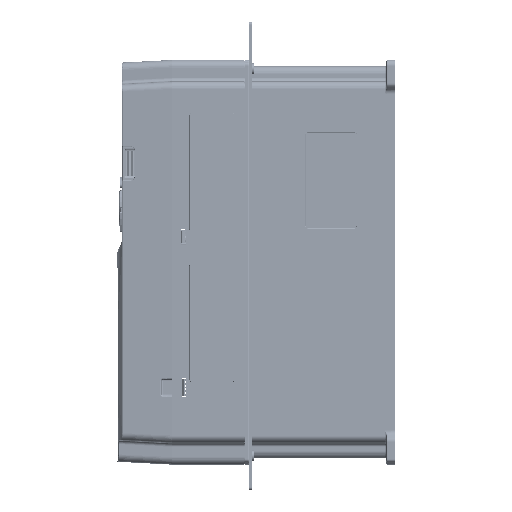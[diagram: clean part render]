
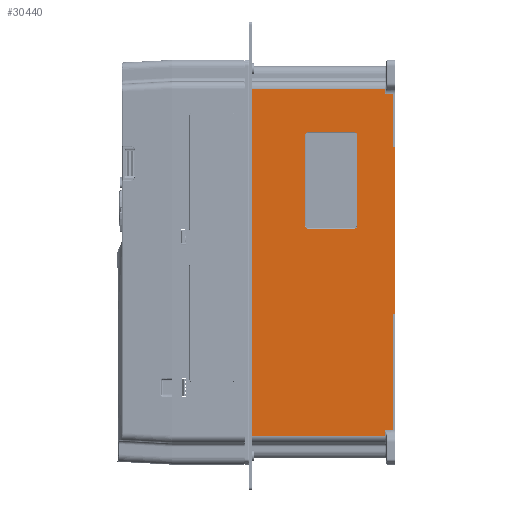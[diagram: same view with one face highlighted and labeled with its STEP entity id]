
A CAD part, left-side view. The second image highlights one B-rep face of the part: STEP entity #30440.
In plain terms, the highlighted planar face has unit normal (-1, 0, 0).
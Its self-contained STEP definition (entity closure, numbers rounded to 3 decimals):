
#2=CARTESIAN_POINT('',(-80.,-63.,29.));
#3=DIRECTION('',(1.,0.,0.));
#4=DIRECTION('',(0.,-1.,0.));
#5=AXIS2_PLACEMENT_3D('',#2,#3,#4);
#7=DIRECTION('',(0.,0.,-1.));
#8=VECTOR('',#7,71.4);
#9=CARTESIAN_POINT('',(-80.,-65.458,100.4));
#10=LINE('',#9,#8);
#11=CARTESIAN_POINT('',(-80.,-63.,100.4));
#12=DIRECTION('',(1.,0.,0.));
#13=DIRECTION('',(0.,0.,1.));
#14=AXIS2_PLACEMENT_3D('',#11,#12,#13);
#16=DIRECTION('',(0.,-1.,0.));
#17=VECTOR('',#16,36.4);
#18=CARTESIAN_POINT('',(-80.,-26.6,102.858));
#19=LINE('',#18,#17);
#20=CARTESIAN_POINT('',(-80.,-26.6,100.4));
#21=DIRECTION('',(1.,0.,0.));
#22=DIRECTION('',(0.,1.,0.));
#23=AXIS2_PLACEMENT_3D('',#20,#21,#22);
#25=DIRECTION('',(0.,0.,1.));
#26=VECTOR('',#25,71.4);
#27=CARTESIAN_POINT('',(-80.,-24.142,29.));
#28=LINE('',#27,#26);
#29=CARTESIAN_POINT('',(-80.,-26.6,29.));
#30=DIRECTION('',(1.,0.,0.));
#31=DIRECTION('',(0.,0.,-1.));
#32=AXIS2_PLACEMENT_3D('',#29,#30,#31);
#34=DIRECTION('',(0.,1.,0.));
#35=VECTOR('',#34,36.4);
#36=CARTESIAN_POINT('',(-80.,-63.,26.542));
#37=LINE('',#36,#35);
#38=DIRECTION('',(0.,0.,-1.));
#39=VECTOR('',#38,4.071);
#40=CARTESIAN_POINT('',(-80.,-87.5,137.));
#41=LINE('',#40,#39);
#42=DIRECTION('',(0.,0.,1.));
#43=VECTOR('',#42,42.129);
#44=CARTESIAN_POINT('',(-80.,-93.5,90.8));
#45=LINE('',#44,#43);
#46=DIRECTION('',(0.,1.,0.));
#47=VECTOR('',#46,1.5);
#48=CARTESIAN_POINT('',(-80.,-95.,90.8));
#49=LINE('',#48,#47);
#50=DIRECTION('',(0.,1.,0.));
#51=VECTOR('',#50,1.5);
#52=CARTESIAN_POINT('',(-80.,-95.,-40.8));
#53=LINE('',#52,#51);
#54=DIRECTION('',(0.,0.,1.));
#55=VECTOR('',#54,92.129);
#56=CARTESIAN_POINT('',(-80.,-93.5,-132.929));
#57=LINE('',#56,#55);
#58=DIRECTION('',(0.,0.,-1.));
#59=VECTOR('',#58,4.071);
#60=CARTESIAN_POINT('',(-80.,-87.5,-132.929));
#61=LINE('',#60,#59);
#62=DIRECTION('',(0.,-1.,0.));
#63=VECTOR('',#62,107.5);
#64=CARTESIAN_POINT('',(-80.,20.,-137.));
#65=LINE('',#64,#63);
#66=DIRECTION('',(0.,0.,1.));
#67=VECTOR('',#66,274.);
#68=CARTESIAN_POINT('',(-80.,20.,-137.));
#69=LINE('',#68,#67);
#70=DIRECTION('',(0.,-1.,0.));
#71=VECTOR('',#70,107.5);
#72=CARTESIAN_POINT('',(-80.,20.,137.));
#73=LINE('',#72,#71);
#20832=DIRECTION('',(0.,-1.,0.));
#20833=VECTOR('',#20832,6.);
#20834=CARTESIAN_POINT('',(-80.,-87.5,
-132.929));
#20835=LINE('',#20834,#20833);
#21257=DIRECTION('',(0.,0.,1.));
#21258=VECTOR('',#21257,131.6);
#21259=CARTESIAN_POINT('',(-80.,-95.,-40.8));
#21260=LINE('',#21259,#21258);
#23943=DIRECTION('',(0.,1.,0.));
#23944=VECTOR('',#23943,6.);
#23945=CARTESIAN_POINT('',(-80.,-93.5,132.929));
#23946=LINE('',#23945,#23944);
#24419=CARTESIAN_POINT('',(-80.,-93.5,-132.929));
#24420=CARTESIAN_POINT('',(-80.,-93.5,-40.8));
#24421=VERTEX_POINT('',#24419);
#24422=VERTEX_POINT('',#24420);
#24423=CARTESIAN_POINT('',(-80.,-93.5,90.8));
#24424=CARTESIAN_POINT('',(-80.,-93.5,132.929));
#24425=VERTEX_POINT('',#24423);
#24426=VERTEX_POINT('',#24424);
#25625=CARTESIAN_POINT('',(-80.,-95.,-40.8));
#25626=VERTEX_POINT('',#25625);
#25629=CARTESIAN_POINT('',(-80.,-95.,90.8));
#25630=VERTEX_POINT('',#25629);
#26814=CARTESIAN_POINT('',(-80.,-87.5,137.));
#26815=CARTESIAN_POINT('',(-80.,-87.5,132.929));
#26816=VERTEX_POINT('',#26814);
#26817=VERTEX_POINT('',#26815);
#27187=CARTESIAN_POINT('',(-80.,-65.458,29.));
#27188=CARTESIAN_POINT('',(-80.,-63.,26.542));
#27189=VERTEX_POINT('',#27187);
#27190=VERTEX_POINT('',#27188);
#27195=CARTESIAN_POINT('',(-80.,-26.6,26.542));
#27196=VERTEX_POINT('',#27195);
#27199=CARTESIAN_POINT('',(-80.,-24.142,29.));
#27200=VERTEX_POINT('',#27199);
#27203=CARTESIAN_POINT('',(-80.,-24.142,100.4));
#27204=VERTEX_POINT('',#27203);
#27207=CARTESIAN_POINT('',(-80.,-26.6,102.858));
#27208=VERTEX_POINT('',#27207);
#27211=CARTESIAN_POINT('',(-80.,-63.,102.858));
#27212=VERTEX_POINT('',#27211);
#27215=CARTESIAN_POINT('',(-80.,-65.458,100.4));
#27216=VERTEX_POINT('',#27215);
#27788=CARTESIAN_POINT('',(-80.,-87.5,
-132.929));
#27789=VERTEX_POINT('',#27788);
#29287=CARTESIAN_POINT('',(-80.,20.,-137.));
#29288=CARTESIAN_POINT('',(-80.,20.,137.));
#29289=VERTEX_POINT('',#29287);
#29290=VERTEX_POINT('',#29288);
#29385=CARTESIAN_POINT('',(-80.,-87.5,-137.));
#29386=VERTEX_POINT('',#29385);
#30391=CARTESIAN_POINT('',(-80.,-95.,-155.));
#30392=DIRECTION('',(-1.,0.,0.));
#30393=DIRECTION('',(0.,0.,1.));
#30394=AXIS2_PLACEMENT_3D('',#30391,#30392,#30393);
#30395=PLANE('',#30394);
#30397=ORIENTED_EDGE('',*,*,#30396,.T.);
#30399=ORIENTED_EDGE('',*,*,#30398,.F.);
#30401=ORIENTED_EDGE('',*,*,#30400,.F.);
#30403=ORIENTED_EDGE('',*,*,#30402,.F.);
#30405=ORIENTED_EDGE('',*,*,#30404,.F.);
#30407=ORIENTED_EDGE('',*,*,#30406,.T.);
#30409=ORIENTED_EDGE('',*,*,#30408,.F.);
#30411=ORIENTED_EDGE('',*,*,#30410,.F.);
#30413=ORIENTED_EDGE('',*,*,#30412,.T.);
#30415=ORIENTED_EDGE('',*,*,#30414,.F.);
#30417=ORIENTED_EDGE('',*,*,#30416,.T.);
#30419=ORIENTED_EDGE('',*,*,#30418,.T.);
#30420=EDGE_LOOP('',(#30397,#30399,#30401,#30403,#30405,#30407,#30409,#30411,
#30413,#30415,#30417,#30419));
#30421=FACE_OUTER_BOUND('',#30420,.F.);
#30423=ORIENTED_EDGE('',*,*,#30422,.F.);
#30425=ORIENTED_EDGE('',*,*,#30424,.F.);
#30427=ORIENTED_EDGE('',*,*,#30426,.F.);
#30429=ORIENTED_EDGE('',*,*,#30428,.F.);
#30431=ORIENTED_EDGE('',*,*,#30430,.F.);
#30433=ORIENTED_EDGE('',*,*,#30432,.F.);
#30435=ORIENTED_EDGE('',*,*,#30434,.F.);
#30437=ORIENTED_EDGE('',*,*,#30436,.F.);
#30438=EDGE_LOOP('',(#30423,#30425,#30427,#30429,#30431,#30433,#30435,#30437));
#30439=FACE_BOUND('',#30438,.F.);
#6=CIRCLE('',#5,2.458);
#15=CIRCLE('',#14,2.458);
#24=CIRCLE('',#23,2.458);
#33=CIRCLE('',#32,2.458);
#30396=EDGE_CURVE('',#26816,#26817,#41,.T.);
#30398=EDGE_CURVE('',#24426,#26817,#23946,.T.);
#30400=EDGE_CURVE('',#24425,#24426,#45,.T.);
#30402=EDGE_CURVE('',#25630,#24425,#49,.T.);
#30404=EDGE_CURVE('',#25626,#25630,#21260,.T.);
#30406=EDGE_CURVE('',#25626,#24422,#53,.T.);
#30408=EDGE_CURVE('',#24421,#24422,#57,.T.);
#30410=EDGE_CURVE('',#27789,#24421,#20835,.T.);
#30412=EDGE_CURVE('',#27789,#29386,#61,.T.);
#30414=EDGE_CURVE('',#29289,#29386,#65,.T.);
#30416=EDGE_CURVE('',#29289,#29290,#69,.T.);
#30418=EDGE_CURVE('',#29290,#26816,#73,.T.);
#30422=EDGE_CURVE('',#27189,#27190,#6,.T.);
#30424=EDGE_CURVE('',#27216,#27189,#10,.T.);
#30426=EDGE_CURVE('',#27212,#27216,#15,.T.);
#30428=EDGE_CURVE('',#27208,#27212,#19,.T.);
#30430=EDGE_CURVE('',#27204,#27208,#24,.T.);
#30432=EDGE_CURVE('',#27200,#27204,#28,.T.);
#30434=EDGE_CURVE('',#27196,#27200,#33,.T.);
#30436=EDGE_CURVE('',#27190,#27196,#37,.T.);
#30440=ADVANCED_FACE('',(#30421,#30439),#30395,.T.);
